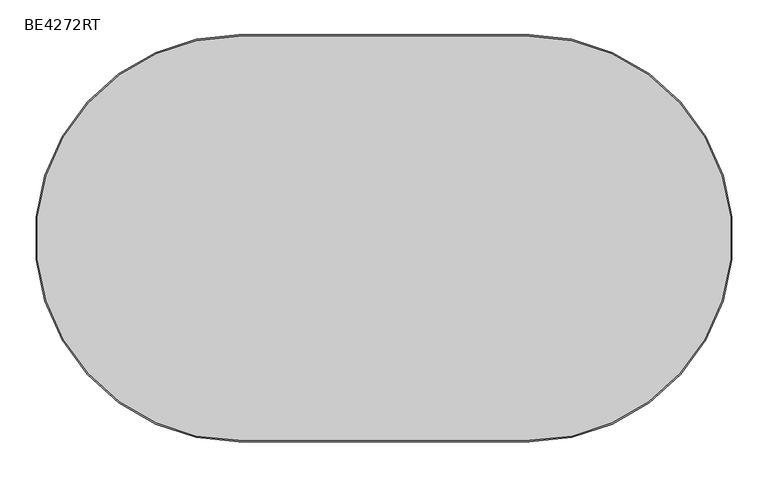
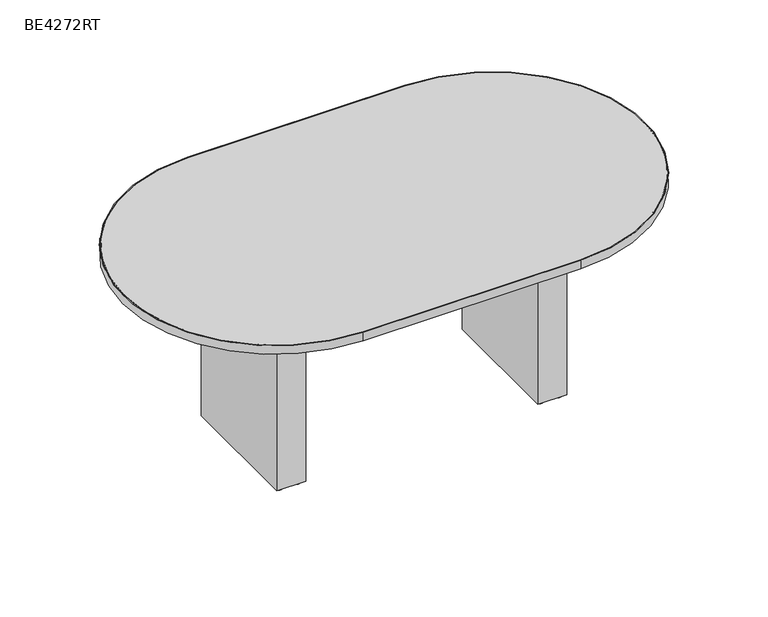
"""IFC4 building model written with IfcOpenShell, lengths in millimetres: furniture geometry, ERG-Beta-Conference_Table-Racetrack : BE4272RT."""

from ifc_helpers import new_model, si_unit, point, frame, frame_2d, origin, origin_with_axes, place, context, project, spatial, polyline, circle_curve, trimmed, segment, composite_curve, outline, extrude, source, transform, mapped, element, save


def be4272rt_8010a66e(model_context):
    return source(origin(), model_context, "Body", "SweptSolid", [
        extrude(outline(composite_curve([segment(trimmed(circle_curve(frame_2d((968.375, 263.276527)), 9.525), [point((958.85, 263.276527))], [point((977.9, 263.276527))], False, "CARTESIAN"), True, "CONTINUOUS"), segment(trimmed(circle_curve(frame_2d((968.375, 263.276527)), 9.525), [point((977.9, 263.276527))], [point((958.85, 263.276527))], False, "CARTESIAN"), True, "CONTINUOUS")], self_intersect=False)), origin_with_axes(), (0.0, 0.0, 1.0), 9.525),
        extrude(outline(composite_curve([segment(trimmed(circle_curve(frame_2d((1031.875, 263.276527)), 9.525), [point((1022.35, 263.276527))], [point((1041.4, 263.276527))], False, "CARTESIAN"), True, "CONTINUOUS"), segment(trimmed(circle_curve(frame_2d((1031.875, 263.276527)), 9.525), [point((1041.4, 263.276527))], [point((1022.35, 263.276527))], False, "CARTESIAN"), True, "CONTINUOUS")], self_intersect=False)), origin_with_axes(), (0.0, 0.0, 1.0), 9.525),
        extrude(outline(composite_curve([segment(trimmed(circle_curve(frame_2d((968.375, -155.823473)), 9.525), [point((958.85, -155.823473))], [point((977.9, -155.823473))], False, "CARTESIAN"), True, "CONTINUOUS"), segment(trimmed(circle_curve(frame_2d((968.375, -155.823473)), 9.525), [point((977.9, -155.823473))], [point((958.85, -155.823473))], False, "CARTESIAN"), True, "CONTINUOUS")], self_intersect=False)), origin_with_axes(), (0.0, 0.0, 1.0), 9.525),
        extrude(outline(composite_curve([segment(trimmed(circle_curve(frame_2d((1031.875, -155.823473)), 9.525), [point((1022.35, -155.823473))], [point((1041.4, -155.823473))], False, "CARTESIAN"), True, "CONTINUOUS"), segment(trimmed(circle_curve(frame_2d((1031.875, -155.823473)), 9.525), [point((1041.4, -155.823473))], [point((1022.35, -155.823473))], False, "CARTESIAN"), True, "CONTINUOUS")], self_intersect=False)), origin_with_axes(), (0.0, 0.0, 1.0), 9.525),
        extrude(outline(polyline([(1050.925, 282.326527), (1050.925, -174.873473), (949.325, -174.873473), (949.325, 282.326527), (1050.925, 282.326527)])), frame((0.0, 0.0, 9.525), z_axis=(0.0, 0.0, 1.0), x_axis=(1.0, 0.0, 0.0)), (0.0, 0.0, 1.0), 695.3249758),
        extrude(outline(composite_curve([segment(trimmed(circle_curve(frame_2d((53.975, 263.276527)), 9.525), [point((44.45, 263.276527))], [point((63.5, 263.276527))], False, "CARTESIAN"), True, "CONTINUOUS"), segment(trimmed(circle_curve(frame_2d((53.975, 263.276527)), 9.525), [point((63.5, 263.276527))], [point((44.45, 263.276527))], False, "CARTESIAN"), True, "CONTINUOUS")], self_intersect=False)), origin_with_axes(), (0.0, 0.0, 1.0), 9.525),
        extrude(outline(composite_curve([segment(trimmed(circle_curve(frame_2d((117.475, 263.276527)), 9.525), [point((107.95, 263.276527))], [point((127.0, 263.276527))], False, "CARTESIAN"), True, "CONTINUOUS"), segment(trimmed(circle_curve(frame_2d((117.475, 263.276527)), 9.525), [point((127.0, 263.276527))], [point((107.95, 263.276527))], False, "CARTESIAN"), True, "CONTINUOUS")], self_intersect=False)), origin_with_axes(), (0.0, 0.0, 1.0), 9.525),
        extrude(outline(composite_curve([segment(trimmed(circle_curve(frame_2d((53.975, -155.823473)), 9.525), [point((44.45, -155.823473))], [point((63.5, -155.823473))], False, "CARTESIAN"), True, "CONTINUOUS"), segment(trimmed(circle_curve(frame_2d((53.975, -155.823473)), 9.525), [point((63.5, -155.823473))], [point((44.45, -155.823473))], False, "CARTESIAN"), True, "CONTINUOUS")], self_intersect=False)), origin_with_axes(), (0.0, 0.0, 1.0), 9.525),
        extrude(outline(composite_curve([segment(trimmed(circle_curve(frame_2d((117.475, -155.823473)), 9.525), [point((107.95, -155.823473))], [point((127.0, -155.823473))], False, "CARTESIAN"), True, "CONTINUOUS"), segment(trimmed(circle_curve(frame_2d((117.475, -155.823473)), 9.525), [point((127.0, -155.823473))], [point((107.95, -155.823473))], False, "CARTESIAN"), True, "CONTINUOUS")], self_intersect=False)), origin_with_axes(), (0.0, 0.0, 1.0), 9.525),
        extrude(outline(polyline([(136.525, 282.326527), (136.525, -174.873473), (34.925, -174.873473), (34.925, 282.326527), (136.525, 282.326527)])), frame((0.0, 0.0, 9.525), z_axis=(0.0, 0.0, 1.0), x_axis=(1.0, 0.0, 0.0)), (0.0, 0.0, 1.0), 695.3249758),
        extrude(outline(composite_curve([segment(polyline([(923.925, -476.498473), (161.925, -476.498473)]), True, "CONTINUOUS"), segment(trimmed(circle_curve(frame_2d((161.925, 53.726527)), 530.225), [point((161.925, -476.498473))], [point((161.925, 583.951527))], False, "CARTESIAN"), True, "CONTINUOUS"), segment(polyline([(161.925, 583.951527), (923.925, 583.951527)]), True, "CONTINUOUS"), segment(trimmed(circle_curve(frame_2d((923.925, 53.726527)), 530.225), [point((923.925, 583.951527))], [point((923.925, -476.498473))], False, "CARTESIAN"), True, "CONTINUOUS")], self_intersect=False)), frame((0.0, 0.0, 704.85), z_axis=(0.0, 0.0, 1.0), x_axis=(1.0, 0.0, 0.0)), (0.0, 0.0, 1.0), 31.75),
        extrude(outline(composite_curve([segment(polyline([(161.925, 587.126527), (923.925, 587.126527)]), True, "CONTINUOUS"), segment(trimmed(circle_curve(frame_2d((923.925, 53.726527)), 533.4), [point((923.925, 587.126527))], [point((923.925, -479.673473))], False, "CARTESIAN"), True, "CONTINUOUS"), segment(polyline([(923.925, -479.673473), (161.925, -479.673473)]), True, "CONTINUOUS"), segment(trimmed(circle_curve(frame_2d((161.925, 53.726527)), 533.4), [point((161.925, -479.673473))], [point((161.925, 587.126527))], False, "CARTESIAN"), True, "CONTINUOUS")], self_intersect=False), holes=[composite_curve([segment(trimmed(circle_curve(frame_2d((161.925, 53.726527)), 530.225), [point((161.925, 583.951527))], [point((161.925, -476.498473))], True, "CARTESIAN"), True, "CONTINUOUS"), segment(polyline([(161.925, -476.498473), (923.925, -476.498473)]), True, "CONTINUOUS"), segment(trimmed(circle_curve(frame_2d((923.925, 53.726527)), 530.225), [point((923.925, -476.498473))], [point((923.925, 583.951527))], True, "CARTESIAN"), True, "CONTINUOUS"), segment(polyline([(923.925, 583.951527), (161.925, 583.951527)]), True, "CONTINUOUS")], self_intersect=False)]), frame((0.0, 0.0, 704.85), z_axis=(0.0, 0.0, 1.0), x_axis=(1.0, 0.0, 0.0)), (0.0, 0.0, 1.0), 31.75),
    ])


if __name__ == "__main__":
    model = new_model("IFC4")
    model_context = context("Model", 3, world=origin())
    ifc_project = project(units=[si_unit("LENGTHUNIT", "METRE", prefix="MILLI")], contexts=[model_context])
    site = spatial("IfcSite", under=ifc_project)
    building = spatial("IfcBuilding", under=site)
    placement = place(None, origin())
    be4272rt_shape = be4272rt_8010a66e(model_context)
    element("IfcFurniture", 1, ObjectType="ERG-Beta-Conference_Table-Racetrack : BE4272RT", at=placement, inside=building, context=model_context, shape_type="MappedRepresentation", body=[
        mapped(be4272rt_shape, transform((0.0, 0.0, 0.0), x_axis=(1.0, 0.0, 0.0), y_axis=(0.0, 1.0, 0.0), z_axis=(0.0, 0.0, 1.0))),
    ])
    save(model, "model.ifc")
